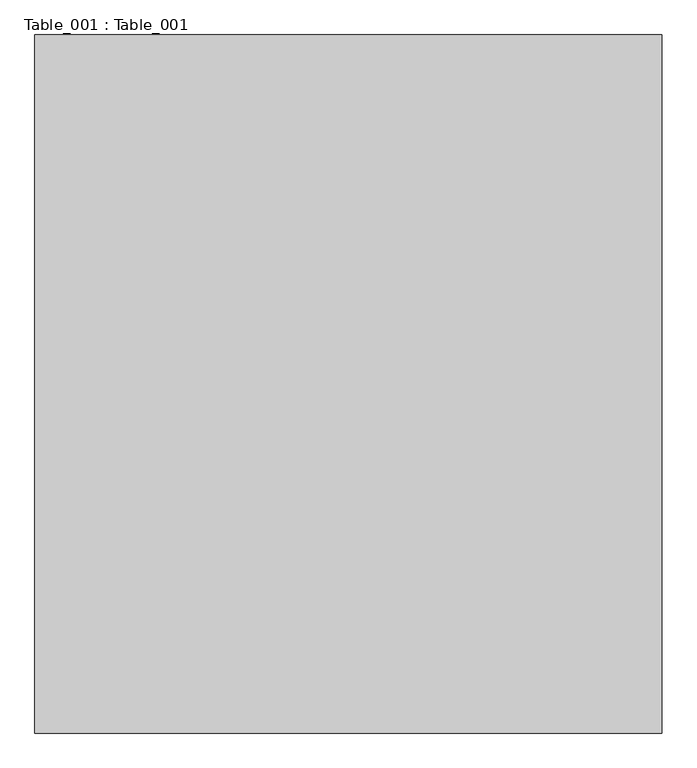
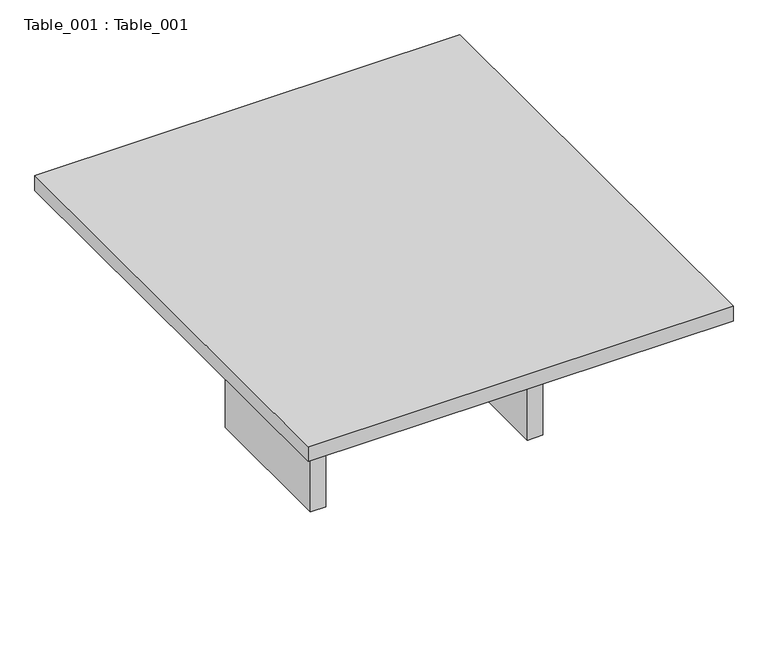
"""IFC4 building model written with IfcOpenShell, lengths in millimetres: furniture geometry, Table_001 : Table_001."""

from ifc_helpers import new_model, si_unit, frame, origin, origin_with_axes, place, context, project, spatial, polyline, outline, extrude, source, transform, mapped, element, save


def table_001_table_001_a1878843(model_context):
    return source(origin(), model_context, "Body", "SweptSolid", [
        extrude(outline(polyline([(249.2419726, 158.4600037), (249.2419726, -158.4600037), (216.0242126, -158.4600037), (216.0242126, 158.4600037), (249.2419726, 158.4600037)])), origin_with_axes(), (0.0, 0.0, 1.0), 398.1826254),
        extrude(outline(polyline([(-249.2419726, 158.4600037), (-216.0242126, 158.4600037), (-216.0242126, -158.4600037), (-249.2419726, -158.4600037), (-249.2419726, 158.4600037)])), origin_with_axes(), (0.0, 0.0, 1.0), 398.1826254),
        extrude(outline(polyline([(-455.7580274, 507.2602205), (455.7580274, 507.2602205), (455.7580274, -507.2602205), (-455.7580274, -507.2602205), (-455.7580274, 507.2602205)])), frame((0.0, 0.0, 398.1826254), z_axis=(0.0, 0.0, 1.0), x_axis=(1.0, 0.0, 0.0)), (0.0, 0.0, 1.0), 33.7759381),
    ])


if __name__ == "__main__":
    model = new_model("IFC4")
    model_context = context("Model", 3, world=origin())
    ifc_project = project(units=[si_unit("LENGTHUNIT", "METRE", prefix="MILLI")], contexts=[model_context])
    site = spatial("IfcSite", under=ifc_project)
    building = spatial("IfcBuilding", under=site)
    placement = place(None, origin())
    table_001_table_001_shape = table_001_table_001_a1878843(model_context)
    element("IfcFurniture", 1, ObjectType="Table_001 : Table_001", at=placement, inside=building, context=model_context, shape_type="MappedRepresentation", body=[
        mapped(table_001_table_001_shape, transform((0.0, 0.0, 0.0), x_axis=(1.0, 0.0, 0.0), y_axis=(0.0, 1.0, 0.0), z_axis=(0.0, 0.0, 1.0))),
    ])
    save(model, "model.ifc")
